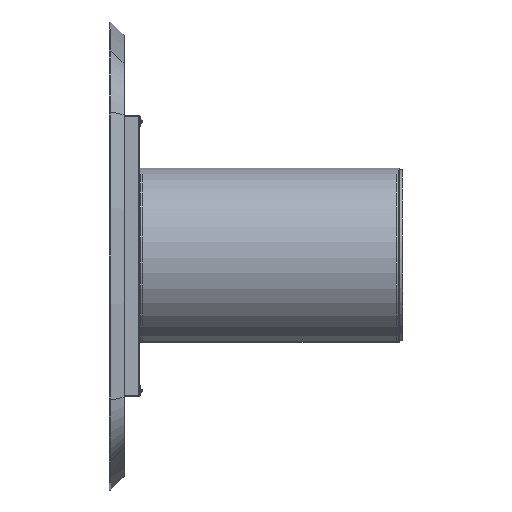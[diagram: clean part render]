
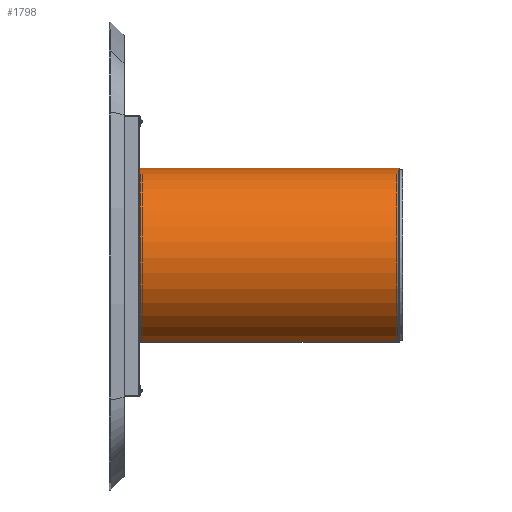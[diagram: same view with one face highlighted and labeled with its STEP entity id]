
A CAD part, left-side view. The second image highlights one B-rep face of the part: STEP entity #1798.
In plain terms, the highlighted cylindrical face has radius 230 mm (diameter 460 mm), a partial arc.
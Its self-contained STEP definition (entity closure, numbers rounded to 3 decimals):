
#136 = EDGE_CURVE ( 'NONE', #616, #19361, #4140, .T. ) ;
#214 = EDGE_CURVE ( 'NONE', #616, #14218, #17300, .T. ) ;
#408 = CARTESIAN_POINT ( 'NONE',  ( 2., 665., -230. ) ) ;
#616 = VERTEX_POINT ( 'NONE', #11297 ) ;
#634 = VECTOR ( 'NONE', #14883, 1000. ) ;
#942 = EDGE_LOOP ( 'NONE', ( #1026, #990, #5577, #9352 ) ) ;
#990 = ORIENTED_EDGE ( 'NONE', *, *, #7889, .F. ) ;
#1026 = ORIENTED_EDGE ( 'NONE', *, *, #3357, .T. ) ;
#1689 = AXIS2_PLACEMENT_3D ( 'NONE', #18182, #15241, #15027 ) ;
#1798 = ADVANCED_FACE ( 'NONE', ( #11749 ), #7083, .T. ) ;
#3271 = LINE ( 'NONE', #9906, #634 ) ;
#3357 = EDGE_CURVE ( 'NONE', #14218, #8251, #4257, .T. ) ;
#4140 = CIRCLE ( 'NONE', #1689, 230. ) ;
#4257 = CIRCLE ( 'NONE', #6703, 230. ) ;
#4893 = AXIS2_PLACEMENT_3D ( 'NONE', #8813, #13378, #8706 ) ;
#5577 = ORIENTED_EDGE ( 'NONE', *, *, #136, .F. ) ;
#5911 = DIRECTION ( 'NONE',  ( 0., 0., 1. ) ) ;
#6703 = AXIS2_PLACEMENT_3D ( 'NONE', #11114, #21012, #5911 ) ;
#7083 = CYLINDRICAL_SURFACE ( 'NONE', #4893, 230. ) ;
#7208 = DIRECTION ( 'NONE',  ( 0., -1., 0. ) ) ;
#7501 = CARTESIAN_POINT ( 'NONE',  ( 2., 0., -230. ) ) ;
#7889 = EDGE_CURVE ( 'NONE', #19361, #8251, #3271, .T. ) ;
#8251 = VERTEX_POINT ( 'NONE', #7501 ) ;
#8706 = DIRECTION ( 'NONE',  ( 0., 0., -1. ) ) ;
#8725 = CARTESIAN_POINT ( 'NONE',  ( 2., 665., 230. ) ) ;
#8813 = CARTESIAN_POINT ( 'NONE',  ( 2., 665., 0. ) ) ;
#9352 = ORIENTED_EDGE ( 'NONE', *, *, #214, .T. ) ;
#9906 = CARTESIAN_POINT ( 'NONE',  ( 2., 665., -230. ) ) ;
#11114 = CARTESIAN_POINT ( 'NONE',  ( 2., 0., 0. ) ) ;
#11297 = CARTESIAN_POINT ( 'NONE',  ( 2., 665., 230. ) ) ;
#11749 = FACE_OUTER_BOUND ( 'NONE', #942, .T. ) ;
#13378 = DIRECTION ( 'NONE',  ( 0., -1., 0. ) ) ;
#14218 = VERTEX_POINT ( 'NONE', #16994 ) ;
#14883 = DIRECTION ( 'NONE',  ( 0., -1., 0. ) ) ;
#14892 = VECTOR ( 'NONE', #7208, 1000. ) ;
#15027 = DIRECTION ( 'NONE',  ( 0., 0., 1. ) ) ;
#15241 = DIRECTION ( 'NONE',  ( 0., 1., 0. ) ) ;
#16994 = CARTESIAN_POINT ( 'NONE',  ( 2., 0., 230. ) ) ;
#17300 = LINE ( 'NONE', #8725, #14892 ) ;
#18182 = CARTESIAN_POINT ( 'NONE',  ( 2., 665., 0. ) ) ;
#19361 = VERTEX_POINT ( 'NONE', #408 ) ;
#21012 = DIRECTION ( 'NONE',  ( 0., 1., 0. ) ) ;
